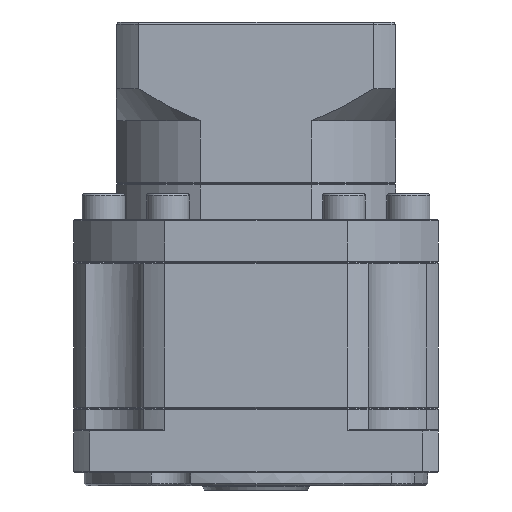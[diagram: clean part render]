
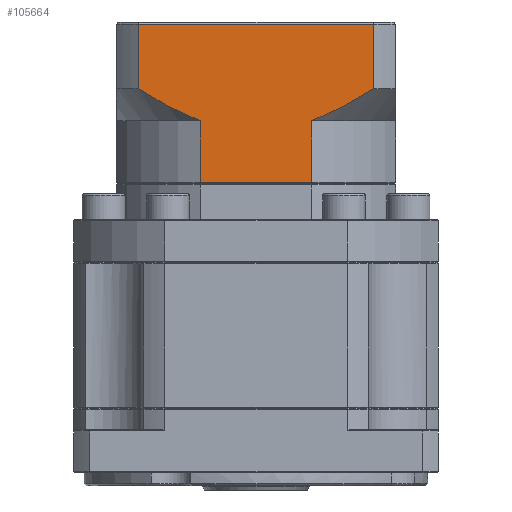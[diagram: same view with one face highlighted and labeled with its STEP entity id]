
A CAD part, front view. The second image highlights one B-rep face of the part: STEP entity #105664.
In plain terms, the highlighted planar face has unit normal (0, -1, 0).
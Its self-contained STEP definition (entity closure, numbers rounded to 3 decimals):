
#1196 = ORIENTED_EDGE ( 'NONE', *, *, #33110, .F. ) ;
#1324 = ORIENTED_EDGE ( 'NONE', *, *, #86308, .F. ) ;
#1842 = VECTOR ( 'NONE', #44042, 1000. ) ;
#1921 = DIRECTION ( 'NONE',  ( 0., 0., 1. ) ) ;
#1931 = CARTESIAN_POINT ( 'NONE',  ( 0.368, -25.976, 83.303 ) ) ;
#2221 = VERTEX_POINT ( 'NONE', #78396 ) ;
#2286 = CARTESIAN_POINT ( 'NONE',  ( 9.744, -25.976, 62.943 ) ) ;
#4230 = CARTESIAN_POINT ( 'NONE',  ( 55.14, -25.976, 65.803 ) ) ;
#4607 = CARTESIAN_POINT ( 'NONE',  ( 50.514, -25.976, 65.469 ) ) ;
#5928 = VERTEX_POINT ( 'NONE', #29001 ) ;
#7509 = VERTEX_POINT ( 'NONE', #44141 ) ;
#9112 = FACE_OUTER_BOUND ( 'NONE', #44275, .T. ) ;
#10720 = CARTESIAN_POINT ( 'NONE',  ( 4.952, -25.976, 65.453 ) ) ;
#13024 = CARTESIAN_POINT ( 'NONE',  ( 45.735, -25.976, 62.89 ) ) ;
#13757 = VERTEX_POINT ( 'NONE', #76297 ) ;
#16656 = ORIENTED_EDGE ( 'NONE', *, *, #37496, .T. ) ;
#18823 = ORIENTED_EDGE ( 'NONE', *, *, #37143, .F. ) ;
#19143 = CARTESIAN_POINT ( 'NONE',  ( 0.368, -25.976, 68.303 ) ) ;
#21326 = ORIENTED_EDGE ( 'NONE', *, *, #49745, .T. ) ;
#21462 = CARTESIAN_POINT ( 'NONE',  ( 40.744, -25.976, 60.803 ) ) ;
#25493 = VECTOR ( 'NONE', #88389, 1000. ) ;
#25504 = ORIENTED_EDGE ( 'NONE', *, *, #104714, .F. ) ;
#27252 = CARTESIAN_POINT ( 'NONE',  ( 14.121, -25.976, 61.042 ) ) ;
#29001 = CARTESIAN_POINT ( 'NONE',  ( 55.14, -25.976, 68.303 ) ) ;
#29302 = CARTESIAN_POINT ( 'NONE',  ( 14.764, -25.976, 60.803 ) ) ;
#29593 = CARTESIAN_POINT ( 'NONE',  ( 54.002, -25.976, 67.57 ) ) ;
#33110 = EDGE_CURVE ( 'NONE', #81176, #91417, #46824, .T. ) ;
#33678 = PLANE ( 'NONE',  #40346 ) ;
#34766 = CARTESIAN_POINT ( 'NONE',  ( 60.254, -25.976, 83.803 ) ) ;
#35582 = CARTESIAN_POINT ( 'NONE',  ( 60.254, -25.976, 46.392 ) ) ;
#37143 = EDGE_CURVE ( 'NONE', #13757, #5928, #74054, .T. ) ;
#37496 = EDGE_CURVE ( 'NONE', #13757, #7509, #93551, .T. ) ;
#40346 = AXIS2_PLACEMENT_3D ( 'NONE', #34766, #93827, #43216 ) ;
#42508 = VERTEX_POINT ( 'NONE', #44031 ) ;
#43216 = DIRECTION ( 'NONE',  ( -1., 0., 0. ) ) ;
#44031 = CARTESIAN_POINT ( 'NONE',  ( 14.764, -25.976, 60.803 ) ) ;
#44042 = DIRECTION ( 'NONE',  ( 1., 0., 0. ) ) ;
#44141 = CARTESIAN_POINT ( 'NONE',  ( 0.368, -25.976, 83.303 ) ) ;
#44217 = CARTESIAN_POINT ( 'NONE',  ( 13.482, -25.976, 61.294 ) ) ;
#44275 = EDGE_LOOP ( 'NONE', ( #18823, #16656, #66554, #25504, #54627, #21326, #1196, #1324 ) ) ;
#46824 = LINE ( 'NONE', #93189, #69342 ) ;
#49745 = EDGE_CURVE ( 'NONE', #2221, #91417, #88917, .T. ) ;
#51372 = VERTEX_POINT ( 'NONE', #74019 ) ;
#52764 = CARTESIAN_POINT ( 'NONE',  ( 11.598, -25.976, 62.093 ) ) ;
#52770 = DIRECTION ( 'NONE',  ( -1., 0., 0. ) ) ;
#54627 = ORIENTED_EDGE ( 'NONE', *, *, #107420, .F. ) ;
#55110 = CARTESIAN_POINT ( 'NONE',  ( 52.85, -25.976, 66.854 ) ) ;
#56942 = B_SPLINE_CURVE_WITH_KNOTS ( 'NONE', 3,
 ( #88669, #29593, #55110, #4607, #63640, #13024, #72147, #21462 ),
 .UNSPECIFIED., .F., .F.,
 ( 4, 2, 2, 4 ),
 ( 0.059, 0.063, 0.067, 0.075 ),
 .UNSPECIFIED. ) ;
#60924 = CARTESIAN_POINT ( 'NONE',  ( 0.368, -25.976, 65.803 ) ) ;
#61283 = CARTESIAN_POINT ( 'NONE',  ( 8.532, -25.976, 63.548 ) ) ;
#62593 = LINE ( 'NONE', #60924, #85034 ) ;
#63640 = CARTESIAN_POINT ( 'NONE',  ( 49.329, -25.976, 64.799 ) ) ;
#66554 = ORIENTED_EDGE ( 'NONE', *, *, #98673, .F. ) ;
#68285 = CARTESIAN_POINT ( 'NONE',  ( 40.744, -25.976, 46.392 ) ) ;
#69342 = VECTOR ( 'NONE', #94619, 1000. ) ;
#69840 = CARTESIAN_POINT ( 'NONE',  ( 2.637, -25.976, 66.841 ) ) ;
#72147 = CARTESIAN_POINT ( 'NONE',  ( 43.283, -25.976, 61.746 ) ) ;
#74019 = CARTESIAN_POINT ( 'NONE',  ( 0.368, -25.976, 68.303 ) ) ;
#74054 = LINE ( 'NONE', #4230, #93754 ) ;
#76297 = CARTESIAN_POINT ( 'NONE',  ( 55.14, -25.976, 83.303 ) ) ;
#78396 = CARTESIAN_POINT ( 'NONE',  ( 14.764, -25.976, 46.392 ) ) ;
#80256 = DIRECTION ( 'NONE',  ( 0., 0., -1. ) ) ;
#81176 = VERTEX_POINT ( 'NONE', #97388 ) ;
#85034 = VECTOR ( 'NONE', #1921, 1000. ) ;
#86308 = EDGE_CURVE ( 'NONE', #5928, #81176, #56942, .T. ) ;
#86354 = CARTESIAN_POINT ( 'NONE',  ( 14.764, -25.976, 60.803 ) ) ;
#88273 = VECTOR ( 'NONE', #52770, 1000. ) ;
#88389 = DIRECTION ( 'NONE',  ( 0., 0., 1. ) ) ;
#88669 = CARTESIAN_POINT ( 'NONE',  ( 55.14, -25.976, 68.303 ) ) ;
#88917 = LINE ( 'NONE', #35582, #1842 ) ;
#90177 = LINE ( 'NONE', #29302, #25493 ) ;
#91417 = VERTEX_POINT ( 'NONE', #68285 ) ;
#93189 = CARTESIAN_POINT ( 'NONE',  ( 40.744, -25.976, 60.803 ) ) ;
#93551 = LINE ( 'NONE', #1931, #88273 ) ;
#93754 = VECTOR ( 'NONE', #80256, 1000. ) ;
#93827 = DIRECTION ( 'NONE',  ( 0., 1., 0. ) ) ;
#94619 = DIRECTION ( 'NONE',  ( 0., 0., -1. ) ) ;
#97388 = CARTESIAN_POINT ( 'NONE',  ( 40.744, -25.976, 60.803 ) ) ;
#98673 = EDGE_CURVE ( 'NONE', #51372, #7509, #62593, .T. ) ;
#103323 = CARTESIAN_POINT ( 'NONE',  ( 12.222, -25.976, 61.82 ) ) ;
#104597 = B_SPLINE_CURVE_WITH_KNOTS ( 'NONE', 3,
 ( #86354, #27252, #44217, #103323, #52764, #2286, #61283, #10720, #69840, #19143 ),
 .UNSPECIFIED., .F., .F.,
 ( 4, 2, 2, 2, 4 ),
 ( 0.101, 0.104, 0.106, 0.11, 0.118 ),
 .UNSPECIFIED. ) ;
#104714 = EDGE_CURVE ( 'NONE', #42508, #51372, #104597, .T. ) ;
#105664 = ADVANCED_FACE ( 'NONE', ( #9112 ), #33678, .F. ) ;
#107420 = EDGE_CURVE ( 'NONE', #2221, #42508, #90177, .T. ) ;
